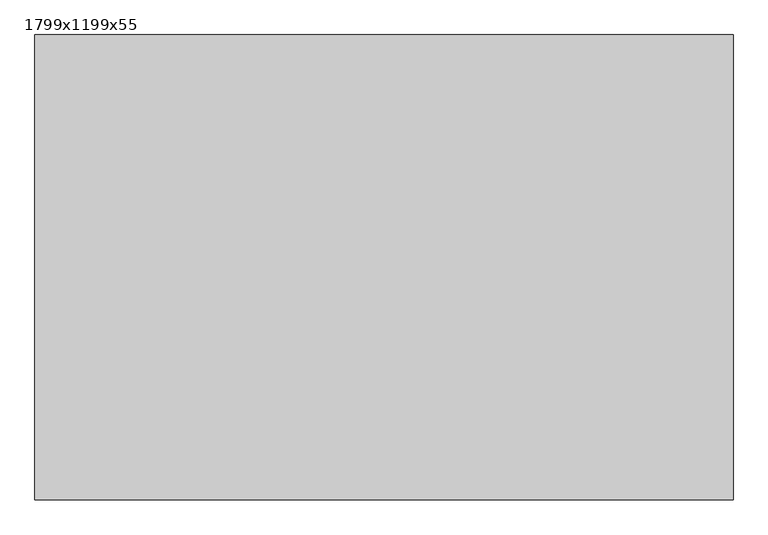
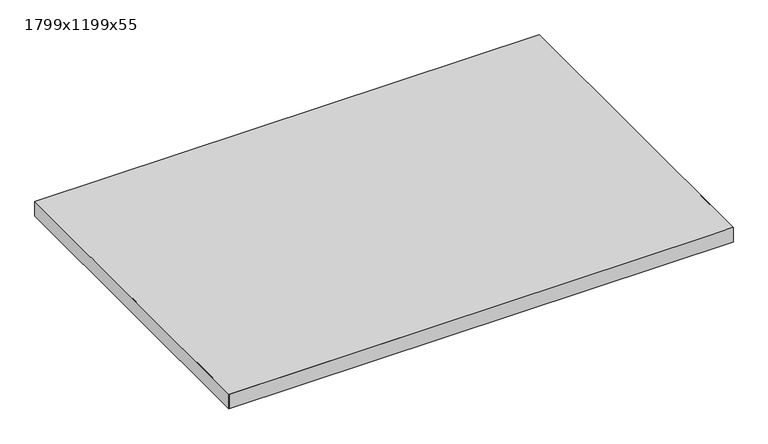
"""IFC4 building model written with IfcOpenShell, lengths in millimetres: proxy geometry, Texaa Panneaux Stereo fixés contre support par système magnétique séparés ou groupés au mur : 1799x1199x55."""

from ifc_helpers import new_model, si_unit, frame, origin, place, context, project, spatial, polyline, outline, extrude, faceted_brep, source, transform, mapped, element, save


def proxy_1799x1199x55_3260623e(model_context):
    return source(origin(), model_context, "Body", "SolidModel", [
        extrude(outline(polyline([(-898.5, 598.5), (898.5, 598.5), (898.5, -598.5), (-898.5, -598.5), (-898.5, 598.5)])), frame((0.0, 0.0, 11.0), z_axis=(0.0, 0.0, 1.0), x_axis=(1.0, 0.0, 0.0)), (0.0, 0.0, 1.0), 53.0),
        faceted_brep([(899.5, -599.5, 65.0), (899.5, 599.5, 65.0), (-899.5, 599.5, 65.0), (-899.5, 598.2982523, 65.0), (-899.5, 597.0965047, 65.0), (-899.5, 539.4126172, 65.0), (-899.5, -599.5, 65.0), (809.3438685, -599.5, 65.0), (895.8937547, -599.5, 65.0), (897.6968774, -599.5, 65.0), (-899.5, 599.5, 10.0), (899.5, 599.5, 10.0), (899.5, -599.5, 10.0), (-899.5, -599.5, 10.0), (-849.5, -549.5, 10.0), (849.5, -549.5, 10.0), (849.5, 549.5, 10.0), (-849.5, 549.5, 10.0), (-899.5, 599.5, 64.0), (899.5, -599.5, 64.0), (-849.5, -549.5, 11.0), (849.5, -549.5, 11.0), (849.5, 549.5, 11.0), (-849.5, 549.5, 11.0), (898.5, 598.5, 64.0), (898.5, -598.5, 64.0), (897.999583, -598.5, 64.0), (896.1964604, -598.5, 64.0), (894.3933377, -598.5, 64.0), (807.8434515, -598.5, 64.0), (-898.5, -598.5, 64.0), (-898.5, 538.7461358, 64.0), (-898.5, 596.4300233, 64.0), (-898.5, 597.631771, 64.0), (-898.5, 598.5, 64.0), (-897.999583, 598.5, 64.0), (-898.5, 598.5, 11.0), (-898.5, -598.5, 11.0), (898.5, -598.5, 11.0), (898.5, 598.5, 11.0)], [[[0, 1, 2, 3, 4, 5, 6, 7, 8, 9]], [[10, 11, 12, 13], [14, 15, 16, 17]], [[10, 13, 6, 5, 4, 3, 2, 18]], [[13, 12, 19, 0, 9, 8, 7, 6]], [[1, 0, 19, 12, 11]], [[2, 1, 11, 10, 18]], [[14, 20, 21, 15]], [[15, 21, 22, 16]], [[16, 22, 23, 17]], [[20, 14, 17, 23]], [[24, 25, 26, 27, 28, 29, 30, 31, 32, 33, 34, 35]], [[36, 37, 38, 39], [21, 20, 23, 22]], [[37, 36, 34, 33, 32, 31, 30]], [[38, 37, 30, 29, 28, 27, 26, 25]], [[25, 24, 39, 38]], [[36, 39, 24, 35, 34]]]),
    ])


if __name__ == "__main__":
    model = new_model("IFC4")
    model_context = context("Model", 3, world=origin())
    ifc_project = project(units=[si_unit("LENGTHUNIT", "METRE", prefix="MILLI")], contexts=[model_context])
    site = spatial("IfcSite", under=ifc_project)
    building = spatial("IfcBuilding", under=site)
    placement = place(None, origin())
    proxy_1799x1199x55_shape = proxy_1799x1199x55_3260623e(model_context)
    element("IfcBuildingElementProxy", 1, Name="Texaa Panneaux Stereo fixés contre support par système magnétique séparés ou groupés au mur : 1799x1199x55", ObjectType="Texaa Panneaux Stereo fixés contre support par système magnétique séparés ou groupés au mur : 1799x1199x55", at=placement, inside=building, context=model_context, shape_type="MappedRepresentation", body=[
        mapped(proxy_1799x1199x55_shape, transform((0.0, 0.0, 0.0), x_axis=(1.0, 0.0, 0.0), y_axis=(0.0, 1.0, 0.0), z_axis=(0.0, 0.0, 1.0))),
    ])
    save(model, "model.ifc")
